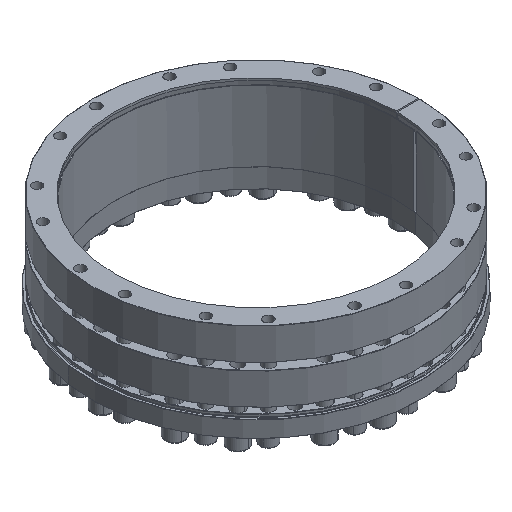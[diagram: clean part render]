
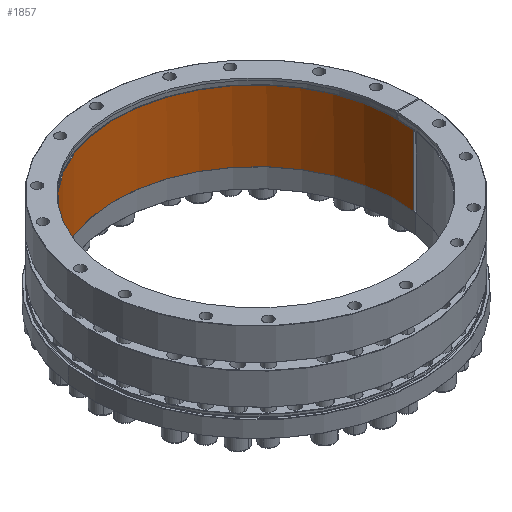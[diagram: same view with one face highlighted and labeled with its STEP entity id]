
A CAD part, isometric view. The second image highlights one B-rep face of the part: STEP entity #1857.
In plain terms, the highlighted cylindrical face has radius 260 mm (diameter 520 mm), a partial arc.
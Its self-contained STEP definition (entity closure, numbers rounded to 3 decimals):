
#65 = CARTESIAN_POINT ( 'NONE',  ( 0., 0., -141.504 ) ) ;
#196 = CARTESIAN_POINT ( 'NONE',  ( -257.309, 37.308, -141.504 ) ) ;
#1857 = ADVANCED_FACE ( 'NONE', ( #19791 ), #15932, .F. ) ;
#2108 = CIRCLE ( 'NONE', #43489, 260. ) ;
#3818 = CARTESIAN_POINT ( 'NONE',  ( 0., 0., -141.504 ) ) ;
#4245 = DIRECTION ( 'NONE',  ( -0.99, 0.143, 0. ) ) ;
#4446 = VECTOR ( 'NONE', #24121, 1000. ) ;
#5239 = CARTESIAN_POINT ( 'NONE',  ( 0., 0., -11.004 ) ) ;
#7974 = DIRECTION ( 'NONE',  ( -0.99, 0.143, 0. ) ) ;
#8265 = CARTESIAN_POINT ( 'NONE',  ( -256.939, 39.78, -11.004 ) ) ;
#8639 = VECTOR ( 'NONE', #23820, 1000. ) ;
#11067 = CARTESIAN_POINT ( 'NONE',  ( 257.656, -34.832, -11.004 ) ) ;
#12152 = CARTESIAN_POINT ( 'NONE',  ( 257.656, -34.832, -11.004 ) ) ;
#15575 = CARTESIAN_POINT ( 'NONE',  ( 0., 0., -11.004 ) ) ;
#15932 = CYLINDRICAL_SURFACE ( 'NONE', #50275, 260. ) ;
#16010 = CARTESIAN_POINT ( 'NONE',  ( -257.309, 37.308, -11.004 ) ) ;
#16481 = EDGE_CURVE ( 'NONE', #40421, #18582, #47713, .T. ) ;
#16807 = AXIS2_PLACEMENT_3D ( 'NONE', #65, #29040, #4245 ) ;
#17595 = DIRECTION ( 'NONE',  ( 0., 0., 1. ) ) ;
#18142 = VERTEX_POINT ( 'NONE', #44233 ) ;
#18582 = VERTEX_POINT ( 'NONE', #11067 ) ;
#19727 = DIRECTION ( 'NONE',  ( 0.99, -0.143, 0. ) ) ;
#19791 = FACE_OUTER_BOUND ( 'NONE', #21595, .T. ) ;
#19971 = CARTESIAN_POINT ( 'NONE',  ( -256.939, 39.78, -141.504 ) ) ;
#20465 = VECTOR ( 'NONE', #53606, 1000. ) ;
#20572 = VERTEX_POINT ( 'NONE', #19971 ) ;
#21053 = EDGE_CURVE ( 'NONE', #18582, #52885, #2108, .T. ) ;
#21595 = EDGE_LOOP ( 'NONE', ( #22199, #41732, #41030, #29971, #33826, #31839, #39638, #32628 ) ) ;
#22199 = ORIENTED_EDGE ( 'NONE', *, *, #51645, .F. ) ;
#23233 = EDGE_CURVE ( 'NONE', #52885, #20572, #32647, .T. ) ;
#23820 = DIRECTION ( 'NONE',  ( 0., 0., 1. ) ) ;
#24121 = DIRECTION ( 'NONE',  ( 0., 0., 1. ) ) ;
#26224 = EDGE_CURVE ( 'NONE', #18142, #36024, #51399, .T. ) ;
#29040 = DIRECTION ( 'NONE',  ( 0., 0., 1. ) ) ;
#29971 = ORIENTED_EDGE ( 'NONE', *, *, #51757, .T. ) ;
#31351 = VECTOR ( 'NONE', #53712, 1000. ) ;
#31839 = ORIENTED_EDGE ( 'NONE', *, *, #21053, .T. ) ;
#32628 = ORIENTED_EDGE ( 'NONE', *, *, #41034, .T. ) ;
#32647 = LINE ( 'NONE', #41258, #31351 ) ;
#32769 = DIRECTION ( 'NONE',  ( 0., 0., 1. ) ) ;
#33426 = CARTESIAN_POINT ( 'NONE',  ( -257.309, 37.308, -142.004 ) ) ;
#33826 = ORIENTED_EDGE ( 'NONE', *, *, #16481, .T. ) ;
#34160 = DIRECTION ( 'NONE',  ( 0.99, -0.143, 0. ) ) ;
#35883 = CARTESIAN_POINT ( 'NONE',  ( 257.309, -37.308, -141.504 ) ) ;
#36024 = VERTEX_POINT ( 'NONE', #35883 ) ;
#36078 = AXIS2_PLACEMENT_3D ( 'NONE', #42451, #17595, #46584 ) ;
#36153 = LINE ( 'NONE', #16010, #4446 ) ;
#39638 = ORIENTED_EDGE ( 'NONE', *, *, #23233, .T. ) ;
#40421 = VERTEX_POINT ( 'NONE', #43525 ) ;
#41030 = ORIENTED_EDGE ( 'NONE', *, *, #26224, .T. ) ;
#41034 = EDGE_CURVE ( 'NONE', #20572, #43082, #48413, .T. ) ;
#41258 = CARTESIAN_POINT ( 'NONE',  ( -256.939, 39.78, -11.004 ) ) ;
#41732 = ORIENTED_EDGE ( 'NONE', *, *, #42359, .F. ) ;
#42359 = EDGE_CURVE ( 'NONE', #18142, #48130, #48043, .T. ) ;
#42367 = DIRECTION ( 'NONE',  ( 0., 0., 1. ) ) ;
#42451 = CARTESIAN_POINT ( 'NONE',  ( 0., 0., -142.004 ) ) ;
#43082 = VERTEX_POINT ( 'NONE', #196 ) ;
#43489 = AXIS2_PLACEMENT_3D ( 'NONE', #15575, #44553, #19727 ) ;
#43525 = CARTESIAN_POINT ( 'NONE',  ( 257.656, -34.832, -141.504 ) ) ;
#44233 = CARTESIAN_POINT ( 'NONE',  ( 257.309, -37.308, -142.004 ) ) ;
#44553 = DIRECTION ( 'NONE',  ( 0., 0., 1. ) ) ;
#46584 = DIRECTION ( 'NONE',  ( 0.99, -0.143, 0. ) ) ;
#47713 = LINE ( 'NONE', #12152, #20465 ) ;
#48043 = CIRCLE ( 'NONE', #36078, 260. ) ;
#48130 = VERTEX_POINT ( 'NONE', #33426 ) ;
#48413 = CIRCLE ( 'NONE', #52945, 260. ) ;
#50275 = AXIS2_PLACEMENT_3D ( 'NONE', #5239, #42367, #34160 ) ;
#51399 = LINE ( 'NONE', #52778, #8639 ) ;
#51645 = EDGE_CURVE ( 'NONE', #48130, #43082, #36153, .T. ) ;
#51701 = CIRCLE ( 'NONE', #16807, 260. ) ;
#51757 = EDGE_CURVE ( 'NONE', #36024, #40421, #51701, .T. ) ;
#52778 = CARTESIAN_POINT ( 'NONE',  ( 257.309, -37.308, -11.004 ) ) ;
#52885 = VERTEX_POINT ( 'NONE', #8265 ) ;
#52945 = AXIS2_PLACEMENT_3D ( 'NONE', #3818, #32769, #7974 ) ;
#53606 = DIRECTION ( 'NONE',  ( 0., 0., 1. ) ) ;
#53712 = DIRECTION ( 'NONE',  ( 0., 0., -1. ) ) ;
